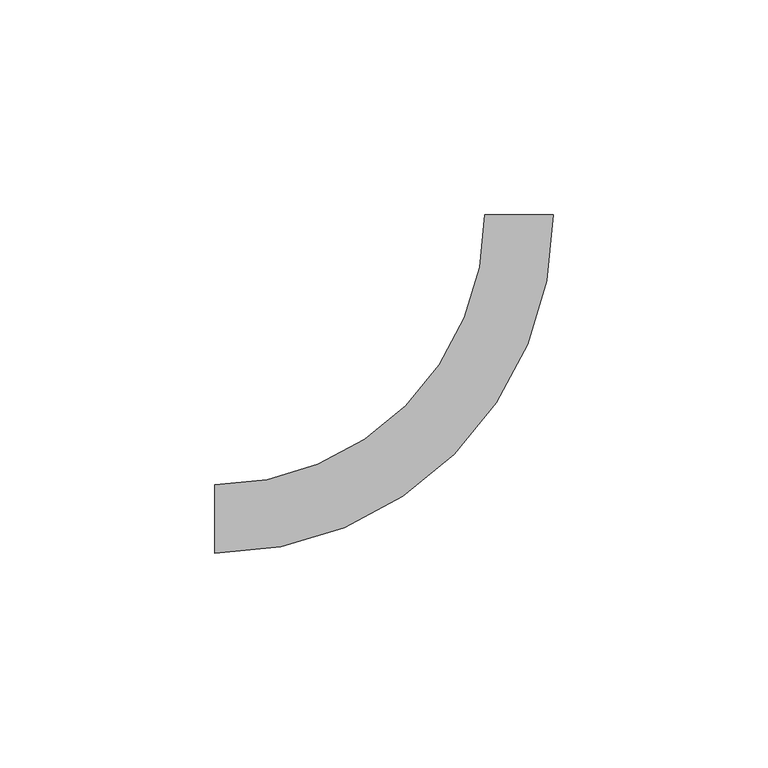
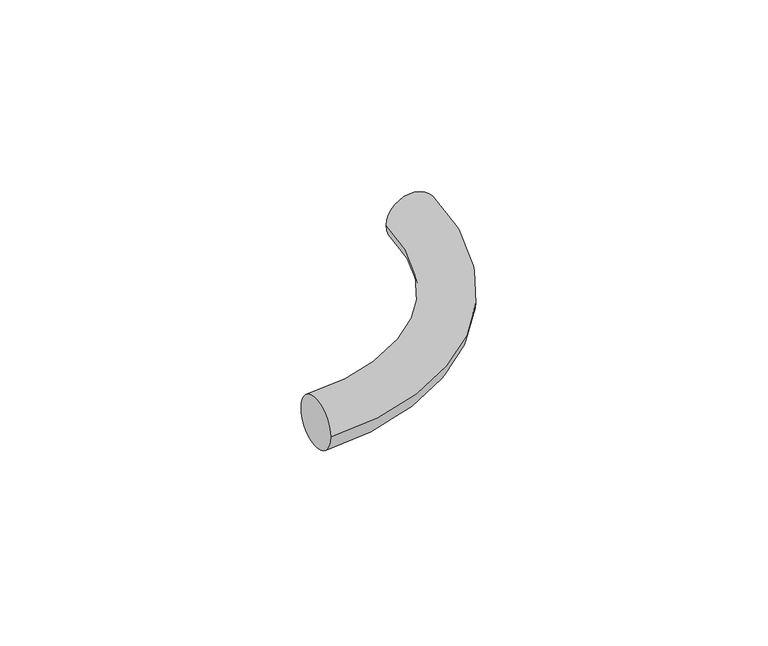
"""IFC4 building model written with IfcOpenShell, lengths in millimetres: pipe fitting geometry, USYSTEMS_Гнутая труба_Radi Pipe : PN 6 в бухтах_С фиксатором."""

import ifcopenshell
import ifcopenshell.guid

model = None  # the IFC model being written
_history = None  # IfcOwnerHistory: only IFC2X3 demands one
_inside = {}  # id of a spatial element -> (the spatial element, [elements in it])
_under = {}  # id of a project, library or spatial element -> (it, [spatial elements below it])
_declared = {}  # id of a project -> (the project, [libraries it declares])
_typed = {}  # id of a type object -> (the type object, [elements of that type])
_made_of = {}  # id of a material, layer set ... -> (it, [elements and type objects made of it])


def new_model(schema):
    """Start an empty IFC model of exactly this schema.

    Asked for "IFC4X3", IfcOpenShell would pick the latest addendum, in which some entities
    have other attributes; the version numbers below select the first issue.
    IFC2X3 requires an IfcOwnerHistory on every rooted entity: one is made here for all.
    """
    global model, _history
    if schema == "IFC4X3":
        model = ifcopenshell.file(schema_version=(4, 3, 0, 0))
    else:
        model = ifcopenshell.file(schema=schema)
    _inside.clear()
    _under.clear()
    _declared.clear()
    _typed.clear()
    _made_of.clear()
    _history = None
    if model.schema == "IFC2X3":
        org = make("IfcOrganization", Name="unknown")
        user = make(
            "IfcPersonAndOrganization",
            ThePerson=make("IfcPerson", FamilyName="unknown"),
            TheOrganization=org,
        )
        app = make(
            "IfcApplication",
            ApplicationDeveloper=org,
            Version="unknown",
            ApplicationFullName="unknown",
            ApplicationIdentifier="unknown",
        )
        _history = make(
            "IfcOwnerHistory",
            OwningUser=user,
            OwningApplication=app,
            ChangeAction="ADDED",
            CreationDate=0,
        )
    return model


def make(cls, **values):
    """One entity of the class cls with the attributes given. An attribute that is None is left unset."""
    return model.create_entity(
        cls, **{name: value for name, value in values.items() if value is not None}
    )


def rooted(cls, **values):
    """An entity with a GlobalId (a new one), such as an element, a storey or a relation."""
    return make(cls, GlobalId=ifcopenshell.guid.new(), OwnerHistory=_history, **values)


def si_unit(unit_type, name, prefix=None):
    """IfcSIUnit, for example si_unit("LENGTHUNIT", "METRE", prefix="MILLI")."""
    return make("IfcSIUnit", UnitType=unit_type, Prefix=prefix, Name=name)


def assignment(units):
    """IfcUnitAssignment: the units of a project."""
    return None if units is None else make("IfcUnitAssignment", Units=units)


def point(xyz):
    """IfcCartesianPoint."""
    return None if xyz is None else make("IfcCartesianPoint", Coordinates=xyz)


def direction(xyz):
    """IfcDirection."""
    return None if xyz is None else make("IfcDirection", DirectionRatios=xyz)


def frame(location, z_axis=None, x_axis=None):
    """IfcAxis2Placement3D, a coordinate frame: its origin and axes. An axis left out is left unset."""
    return make(
        "IfcAxis2Placement3D",
        Location=point(location),
        Axis=direction(z_axis),
        RefDirection=direction(x_axis),
    )


def origin():
    """The frame at (0, 0, 0) with its axes left unset."""
    return frame((0.0, 0.0, 0.0))


def place(relative_to, where):
    """IfcLocalPlacement: puts the frame where relative to a parent placement (None: the world)."""
    return make(
        "IfcLocalPlacement", PlacementRelTo=relative_to, RelativePlacement=where
    )


def context(
    kind, dimensions, precision=None, world=None, true_north=None, identifier=None
):
    """IfcGeometricRepresentationContext, for example the 3D "Model" context."""
    return make(
        "IfcGeometricRepresentationContext",
        ContextIdentifier=identifier,
        ContextType=kind,
        CoordinateSpaceDimension=dimensions,
        Precision=precision,
        WorldCoordinateSystem=world,
        TrueNorth=true_north,
    )


def project(units=None, contexts=None):
    """IfcProject with its units and contexts."""
    return rooted(
        "IfcProject",
        Name="project",
        RepresentationContexts=contexts,
        UnitsInContext=assignment(units),
    )


def spatial(cls, under=None, at=None, **own):
    """A site, building, storey or space (cls), placed at a placement, below another one or the project."""
    s = rooted(cls, ObjectPlacement=at, **own)
    if under is not None:
        _under.setdefault(under.id(), (under, []))[1].append(s)
    return s


def circle_curve(where, radius):
    """IfcCircle in the frame where."""
    return make("IfcCircle", Position=where, Radius=radius)


def ellipse_curve(where, semi_axis1, semi_axis2):
    """IfcEllipse in the frame where."""
    return make(
        "IfcEllipse", Position=where, SemiAxis1=semi_axis1, SemiAxis2=semi_axis2
    )


def trimmed(basis, trim1, trim2, sense, master):
    """IfcTrimmedCurve: the piece of a basis curve between two trims."""
    return make(
        "IfcTrimmedCurve",
        BasisCurve=basis,
        Trim1=trim1,
        Trim2=trim2,
        SenseAgreement=sense,
        MasterRepresentation=master,
    )


def shape(context_of_items, identifier, shape_type, items):
    """IfcShapeRepresentation: the items that make up one representation, for example the "Body"."""
    return make(
        "IfcShapeRepresentation",
        ContextOfItems=context_of_items,
        RepresentationIdentifier=identifier,
        RepresentationType=shape_type,
        Items=items,
    )


def source(mapping_origin, context_of_items, identifier, shape_type, items):
    """IfcRepresentationMap: a shape defined once, which mapped items show again and again."""
    return make(
        "IfcRepresentationMap",
        MappingOrigin=mapping_origin,
        MappedRepresentation=shape(context_of_items, identifier, shape_type, items),
    )


def transform(
    local_origin,
    x_axis=None,
    y_axis=None,
    z_axis=None,
    scale=None,
    scale2=None,
    scale3=None,
    uniform=True,
):
    """IfcCartesianTransformationOperator3D, or its non-uniform kind. x_axis, y_axis, z_axis: its Axis1, 2, 3."""
    if uniform:
        return make(
            "IfcCartesianTransformationOperator3D",
            Axis1=direction(x_axis),
            Axis2=direction(y_axis),
            LocalOrigin=point(local_origin),
            Scale=scale,
            Axis3=direction(z_axis),
        )
    return make(
        "IfcCartesianTransformationOperator3DnonUniform",
        Axis1=direction(x_axis),
        Axis2=direction(y_axis),
        LocalOrigin=point(local_origin),
        Scale=scale,
        Axis3=direction(z_axis),
        Scale2=scale2,
        Scale3=scale3,
    )


def mapped(mapping_source, mapping_target):
    """IfcMappedItem: shows the shape of a source again, moved by a transform."""
    return make(
        "IfcMappedItem", MappingSource=mapping_source, MappingTarget=mapping_target
    )


def made_of(thing, what):
    """Note that an element or type object is made of a material, layer set ...; save() writes the relation."""
    if what is not None:
        _made_of.setdefault(what.id(), (what, []))[1].append(thing)
    return thing


def element(
    cls,
    number,
    at=None,
    inside=None,
    cuts=None,
    type_object=None,
    material=None,
    context=None,
    identifier="Body",
    shape_type=None,
    held_by="IfcProductDefinitionShape",
    body=None,
    shapes=None,
    **own,
):
    """One element of the class cls, such as IfcWall. Its Tag is "e" and its number.

    at: its placement. inside: the storey or other place that contains it. cuts: it is an
    opening in that element (IfcRelVoidsElement). A single representation is given by context,
    identifier, shape_type and body (its items); several are given by shapes. held_by: the class
    of the entity that holds the representations. save() writes the other relations.
    """
    e = rooted(cls, Tag="e%d" % number, ObjectPlacement=at, **own)
    if body is not None:
        shapes = [shape(context, identifier, shape_type, body)]
    if shapes is not None:
        e.Representation = make(held_by, Representations=shapes)
    if inside is not None:
        _inside.setdefault(inside.id(), (inside, []))[1].append(e)
    if cuts is not None:
        rooted(
            "IfcRelVoidsElement", RelatingBuildingElement=cuts, RelatedOpeningElement=e
        )
    if type_object is not None:
        _typed.setdefault(type_object.id(), (type_object, []))[1].append(e)
    return made_of(e, material)


def aggregate(whole, parts):
    """IfcRelAggregates: a whole, such as a stair, and the parts it consists of."""
    return rooted("IfcRelAggregates", RelatingObject=whole, RelatedObjects=parts)


def save(model, path):
    """Write the relations noted so far, then the file.

    IfcRelAggregates (storeys below a building ...), IfcRelContainedInSpatialStructure (elements
    in a storey), IfcRelDefinesByType, IfcRelAssociatesMaterial and IfcRelDeclares: one each for
    every whole, place, type object, material and project.
    """
    for whole, parts in _under.values():
        aggregate(whole, parts)
    for where, things in _inside.values():
        rooted(
            "IfcRelContainedInSpatialStructure",
            RelatedElements=things,
            RelatingStructure=where,
        )
    for kind, things in _typed.values():
        rooted("IfcRelDefinesByType", RelatedObjects=things, RelatingType=kind)
    for what, things in _made_of.values():
        rooted("IfcRelAssociatesMaterial", RelatedObjects=things, RelatingMaterial=what)
    for by, libraries in _declared.values():
        rooted("IfcRelDeclares", RelatingContext=by, RelatedDefinitions=libraries)
    model.write(path)


def plane_surface(at):
    """IfcPlane: the flat surface through the origin of the frame at, square to its z axis."""
    return make("IfcPlane", Position=at)


def revolved_surface(curve, axis_point, axis_direction):
    """IfcSurfaceOfRevolution: the curve turned about the line through axis_point along axis_direction."""
    return make(
        "IfcSurfaceOfRevolution",
        SweptCurve=make("IfcArbitraryOpenProfileDef", ProfileType="CURVE", Curve=curve),
        AxisPosition=make("IfcAxis1Placement", Location=point(axis_point), Axis=direction(axis_direction)),
    )


def advanced_brep(points, edges, surfaces, faces):
    """IfcAdvancedBrep: a solid bounded by faces that lie on surfaces and meet in shared edges.

    An edge is (start, end): straight between two places in points (the first is 0);
    or (start, end, curve); or (start, end, curve, False) where it runs against its curve.
    A face is (place in surfaces, loops), or (place, loops, False) where it looks against
    its surface's normal. A loop lists edges by number (the first is 1), with a minus sign
    where the edge is run from its end to its start. The first loop is the outer one.
    """
    corners = [point(p) for p in points]
    vertices = [make("IfcVertexPoint", VertexGeometry=c) for c in corners]
    made = []
    for start, end, *more in edges:
        made.append(
            make(
                "IfcEdgeCurve",
                EdgeStart=vertices[start],
                EdgeEnd=vertices[end],
                EdgeGeometry=more[0] if more else make("IfcPolyline", Points=[corners[start], corners[end]]),
                SameSense=more[1] if len(more) > 1 else True,
            )
        )
    hull = []
    for where, loops, *sense in faces:
        bounds = []
        for j, loop in enumerate(loops):
            ring = [make("IfcOrientedEdge", EdgeElement=made[abs(k) - 1], Orientation=k > 0) for k in loop]
            bounds.append(
                make(
                    "IfcFaceOuterBound" if j == 0 else "IfcFaceBound",
                    Bound=make("IfcEdgeLoop", EdgeList=ring),
                    Orientation=True,
                )
            )
        hull.append(make("IfcAdvancedFace", Bounds=bounds, FaceSurface=surfaces[where], SameSense=sense[0] if sense else True))
    return make("IfcAdvancedBrep", Outer=make("IfcClosedShell", CfsFaces=hull))


def pipe_fitting_3e503640(model_context):
    return source(origin(), model_context, "Body", "AdvancedBrep", [
        advanced_brep(
        [(-71.0, -8.0, 0.0), (-71.0, 8.0, 0.0), (8.0, 71.0, 0.0), (-8.0, 71.0, 0.0)],
        [
            (0, 1, circle_curve(frame((-71.0, 0.0, 0.0), z_axis=(-1.0, 0.0, 0.0), x_axis=(0.0, 1.0, 0.0)), 8.0)),
            (1, 0, circle_curve(frame((-71.0, 0.0, 0.0), z_axis=(-1.0, 0.0, 0.0), x_axis=(0.0, 1.0, 0.0)), 8.0)),
            (2, 3, circle_curve(frame((0.0, 71.0, 0.0), z_axis=(0.0, 1.0, 0.0), x_axis=(-1.0, 0.0, 0.0)), 8.0)),
            (3, 2, circle_curve(frame((0.0, 71.0, 0.0), z_axis=(0.0, 1.0, 0.0), x_axis=(-1.0, 0.0, 0.0)), 8.0)),
            (3, 1, circle_curve(frame((-71.0, 71.0, 0.0), z_axis=(0.0, 0.0, -1.0), x_axis=(0.0, -1.0, 0.0)), 63.0)),
            (0, 2, circle_curve(frame((-71.0, 71.0, 0.0), z_axis=(0.0, 0.0, 1.0), x_axis=(0.0, -1.0, 0.0)), 79.0)),
        ],
        [
            plane_surface(frame((-71.0, 0.0, 0.0), z_axis=(-1.0, 0.0, 0.0), x_axis=(0.0, 0.0, 1.0))),
            plane_surface(frame((0.0, 71.0, 0.0), z_axis=(0.0, 1.0, 0.0), x_axis=(0.0, 0.0, 1.0))),
            revolved_surface(trimmed(ellipse_curve(frame((-71.0, 0.0, 0.0), z_axis=(-1.0, 0.0, 0.0), x_axis=(0.0, 1.0, 0.0)), 8.0, 8.0), [point((-71.0, -8.0, 0.0))], [point((-71.0, 8.0, 0.0))], True, "CARTESIAN"), (-71.0, 71.0, 0.0), (0.0, 0.0, 1.0)),
            revolved_surface(trimmed(ellipse_curve(frame((-71.0, 0.0, 0.0), z_axis=(-1.0, 0.0, 0.0), x_axis=(0.0, 1.0, 0.0)), 8.0, 8.0), [point((-71.0, 8.0, 0.0))], [point((-71.0, -8.0, 0.0))], True, "CARTESIAN"), (-71.0, 71.0, 0.0), (0.0, 0.0, 1.0)),
        ],
        [
            (0, [[1, 2]]),
            (1, [[3, 4]]),
            (2, [[5, -1, 6, -4]]),
            (3, [[-6, -2, -5, -3]]),
        ],
    ),
    ])


if __name__ == "__main__":
    model = new_model("IFC4")
    model_context = context("Model", 3, world=origin())
    ifc_project = project(units=[si_unit("LENGTHUNIT", "METRE", prefix="MILLI")], contexts=[model_context])
    site = spatial("IfcSite", under=ifc_project)
    building = spatial("IfcBuilding", under=site)
    placement = place(None, origin())
    pipe_fitting_shape = pipe_fitting_3e503640(model_context)
    element("IfcPipeFitting", 1, ObjectType="USYSTEMS_Гнутая труба_Radi Pipe : PN 6 в бухтах_С фиксатором", at=placement, inside=building, context=model_context, shape_type="MappedRepresentation", body=[
        mapped(pipe_fitting_shape, transform((0.0, 0.0, 0.0), x_axis=(1.0, 0.0, 0.0), y_axis=(0.0, 1.0, 0.0), z_axis=(0.0, 0.0, 1.0))),
    ])
    save(model, "model.ifc")
